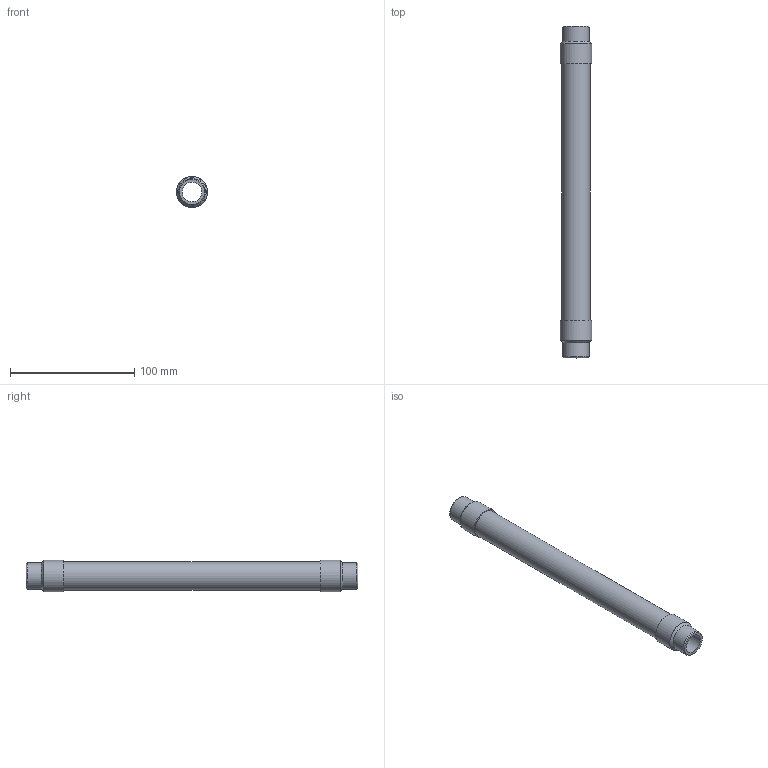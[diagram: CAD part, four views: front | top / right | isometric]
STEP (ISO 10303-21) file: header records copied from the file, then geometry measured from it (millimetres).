
FILE_DESCRIPTION(/* description */ (''),/* implementation_level */ '2;1');
FILE_NAME(/* name */ 'C:\001_Work\Designs\CSAWN\CSAWN-0.5x10.5.stp',/* time_stamp */ '2016-06-04T15:59:17-04:00',/* author */ ('rramoutar'),/* organization */ (''),/* preprocessor_version */ 'ST-DEVELOPER v15.6',/* originating_system */ 'Autodesk Inventor 2015',/* authorisation */ '');
FILE_SCHEMA (('CONFIG_CONTROL_DESIGN'));
Length unit declared in the file: inch
Products named in the file (1): CSAWN-0.5x10.5
Bounding box: 25.09 x 266.7 x 25.09 mm (x, y, z)
Volume: 12788 mm3; surface area: 43022.4 mm2
Topology: 5 solids, 5 shells, 24 faces, 44 edges, 30 vertices
Faces by surface type: cylinder 10, plane 10, cone 4
Full cylindrical faces by diameter (mm): 15.799 x2, 21.336 x2, 22.098 x1, 22.708 x3, 25.095 x2
Entity records: 611 total; most frequent: DIRECTION 106, CARTESIAN_POINT 81, ORIENTED_EDGE 56, AXIS2_PLACEMENT_3D 53, EDGE_LOOP 48, STYLED_ITEM 29, CIRCLE 28, VERTEX_POINT 28
